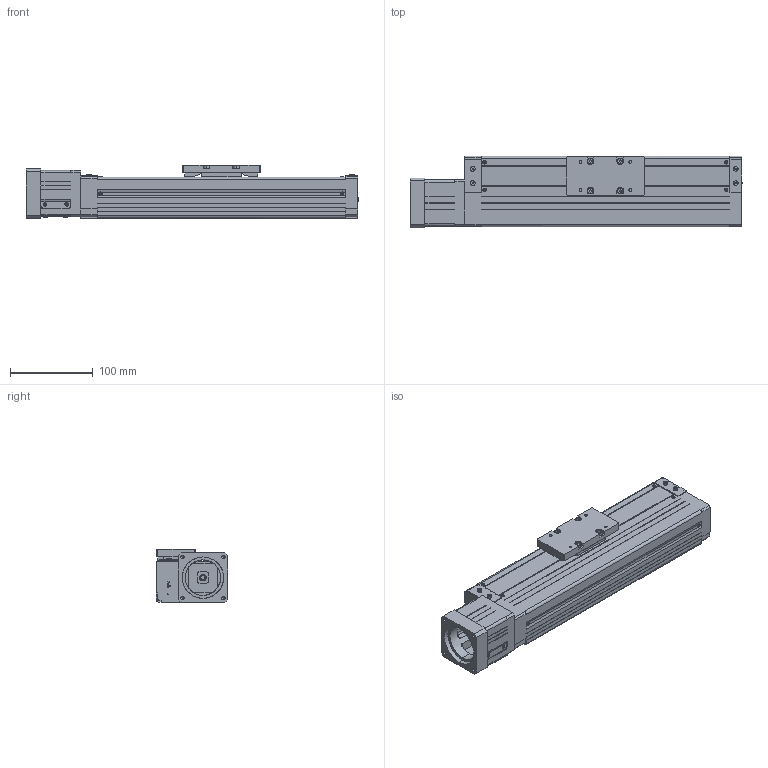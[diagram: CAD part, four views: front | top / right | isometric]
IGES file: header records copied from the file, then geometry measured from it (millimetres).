
Global section: file name: No Iges File Name specified; native system: AutoDesk Inventor R10; preprocessor: AutoDesk Inventor Iges Exporter R10; author: No Author specified; organization: No Organization specified; date: 20110701.174156; units: millimetre
Bounding box: 401 x 86.45 x 65 mm (x, y, z)
Surface area: 259129.4 mm2 (no closed solid volume)
Topology: 0 solids, 0 shells, 938 faces, 5854 edges, 5830 vertices
Faces by surface type: bspline 938
